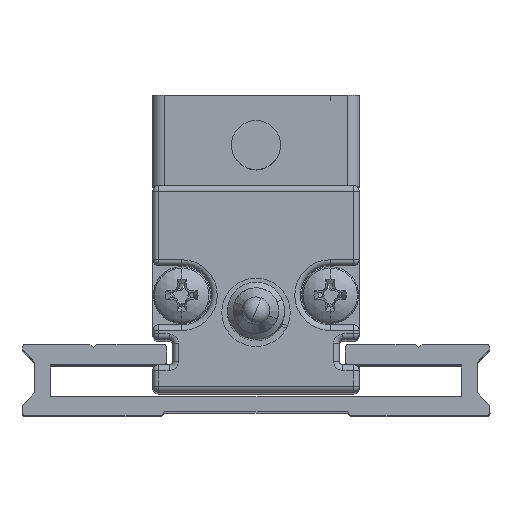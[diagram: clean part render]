
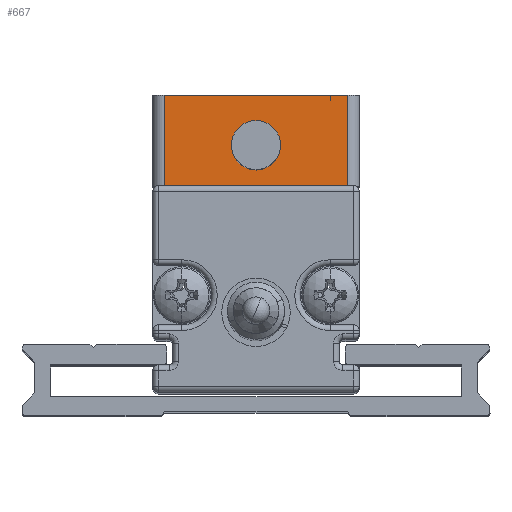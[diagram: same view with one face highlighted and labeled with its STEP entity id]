
A CAD part, top view. The second image highlights one B-rep face of the part: STEP entity #667.
In plain terms, the highlighted planar face has unit normal (0, 0, 1).
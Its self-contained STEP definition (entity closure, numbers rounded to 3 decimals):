
#242 = CARTESIAN_POINT ( 'NONE',  ( -13.657, 10.515, 71.9 ) ) ;
#667 = ADVANCED_FACE ( 'NONE', ( #6446, #18998 ), #25412, .F. ) ;
#1292 = DIRECTION ( 'NONE',  ( 0., 1., 0. ) ) ;
#2196 = ORIENTED_EDGE ( 'NONE', *, *, #25921, .F. ) ;
#2213 = CARTESIAN_POINT ( 'NONE',  ( 3.443, 10.515, 71.9 ) ) ;
#2633 = EDGE_CURVE ( 'NONE', #19848, #21538, #11677, .T. ) ;
#5161 = VECTOR ( 'NONE', #8718, 1000. ) ;
#5175 = CARTESIAN_POINT ( 'NONE',  ( -12.657, 18.515, 71.9 ) ) ;
#6446 = FACE_BOUND ( 'NONE', #7473, .T. ) ;
#7348 = CARTESIAN_POINT ( 'NONE',  ( -12.657, 10.515, 71.9 ) ) ;
#7473 = EDGE_LOOP ( 'NONE', ( #17072, #2196 ) ) ;
#7847 = CARTESIAN_POINT ( 'NONE',  ( -4.607, 14.115, 71.9 ) ) ;
#7882 = AXIS2_PLACEMENT_3D ( 'NONE', #18262, #18166, #18359 ) ;
#8718 = DIRECTION ( 'NONE',  ( 0., -1., 0. ) ) ;
#8802 = AXIS2_PLACEMENT_3D ( 'NONE', #7847, #25800, #19033 ) ;
#9178 = CARTESIAN_POINT ( 'NONE',  ( -4.607, 11.965, 71.9 ) ) ;
#10155 = CARTESIAN_POINT ( 'NONE',  ( -4.607, 16.265, 71.9 ) ) ;
#10436 = VECTOR ( 'NONE', #18093, 1000. ) ;
#11036 = CARTESIAN_POINT ( 'NONE',  ( -12.657, 10.515, 71.9 ) ) ;
#11677 = LINE ( 'NONE', #18751, #23168 ) ;
#11708 = VERTEX_POINT ( 'NONE', #9178 ) ;
#14145 = ORIENTED_EDGE ( 'NONE', *, *, #25614, .T. ) ;
#14379 = EDGE_LOOP ( 'NONE', ( #28662, #14145, #15453, #20848 ) ) ;
#14748 = VERTEX_POINT ( 'NONE', #7348 ) ;
#15271 = AXIS2_PLACEMENT_3D ( 'NONE', #18535, #16641, #1292 ) ;
#15453 = ORIENTED_EDGE ( 'NONE', *, *, #19901, .F. ) ;
#15594 = VECTOR ( 'NONE', #15605, 1000. ) ;
#15605 = DIRECTION ( 'NONE',  ( -1., 0., 0. ) ) ;
#16249 = VERTEX_POINT ( 'NONE', #5175 ) ;
#16641 = DIRECTION ( 'NONE',  ( 0., 0., -1. ) ) ;
#17072 = ORIENTED_EDGE ( 'NONE', *, *, #25656, .F. ) ;
#17389 = CIRCLE ( 'NONE', #8802, 2.15 ) ;
#18093 = DIRECTION ( 'NONE',  ( -1., 0., 0. ) ) ;
#18166 = DIRECTION ( 'NONE',  ( 0., 0., 1. ) ) ;
#18262 = CARTESIAN_POINT ( 'NONE',  ( -4.607, 14.115, 71.9 ) ) ;
#18359 = DIRECTION ( 'NONE',  ( 0., -1., 0. ) ) ;
#18456 = LINE ( 'NONE', #242, #10436 ) ;
#18535 = CARTESIAN_POINT ( 'NONE',  ( -13.657, 10.515, 71.9 ) ) ;
#18575 = EDGE_CURVE ( 'NONE', #21538, #16249, #26694, .T. ) ;
#18751 = CARTESIAN_POINT ( 'NONE',  ( 3.443, 10.515, 71.9 ) ) ;
#18790 = LINE ( 'NONE', #11036, #5161 ) ;
#18998 = FACE_OUTER_BOUND ( 'NONE', #14379, .T. ) ;
#19033 = DIRECTION ( 'NONE',  ( 0., -1., 0. ) ) ;
#19131 = VERTEX_POINT ( 'NONE', #10155 ) ;
#19848 = VERTEX_POINT ( 'NONE', #2213 ) ;
#19901 = EDGE_CURVE ( 'NONE', #19848, #14748, #18456, .T. ) ;
#20848 = ORIENTED_EDGE ( 'NONE', *, *, #2633, .T. ) ;
#20988 = DIRECTION ( 'NONE',  ( 0., 1., 0. ) ) ;
#21538 = VERTEX_POINT ( 'NONE', #28784 ) ;
#23168 = VECTOR ( 'NONE', #20988, 1000. ) ;
#23997 = CIRCLE ( 'NONE', #7882, 2.15 ) ;
#25412 = PLANE ( 'NONE',  #15271 ) ;
#25614 = EDGE_CURVE ( 'NONE', #16249, #14748, #18790, .T. ) ;
#25656 = EDGE_CURVE ( 'NONE', #11708, #19131, #23997, .T. ) ;
#25800 = DIRECTION ( 'NONE',  ( 0., 0., 1. ) ) ;
#25921 = EDGE_CURVE ( 'NONE', #19131, #11708, #17389, .T. ) ;
#26694 = LINE ( 'NONE', #27138, #15594 ) ;
#27138 = CARTESIAN_POINT ( 'NONE',  ( -13.657, 18.515, 71.9 ) ) ;
#28662 = ORIENTED_EDGE ( 'NONE', *, *, #18575, .T. ) ;
#28784 = CARTESIAN_POINT ( 'NONE',  ( 3.443, 18.515, 71.9 ) ) ;
